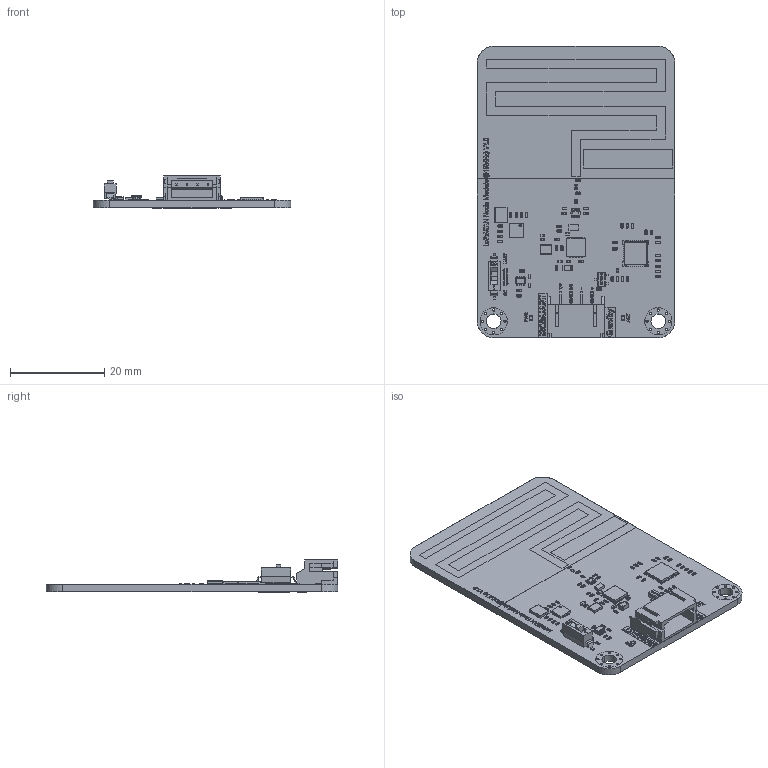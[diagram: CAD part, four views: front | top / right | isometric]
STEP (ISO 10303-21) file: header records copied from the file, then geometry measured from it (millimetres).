
FILE_DESCRIPTION(/* description */ (''),/* implementation_level */ '2;1');
FILE_NAME(/* name */ 'DFR111~1',/* time_stamp */ '2024-11-05T15:00:27+08:00',/* author */ (''),/* organization */ (''),/* preprocessor_version */ 'ST-DEVELOPER v16.5',/* originating_system */ '',/* authorisation */ '');
FILE_SCHEMA (('AUTOMOTIVE_DESIGN'));
Products named in the file (1): Document
Bounding box: 42 x 62 x 6.82 mm (x, y, z)
Volume: 4949.9 mm3; surface area: 12961.1 mm2
Topology: 374 solids, 424 shells, 6130 faces, 14102 edges, 8718 vertices
Faces by surface type: bspline 3227, plane 2903
Entity records: 212734 total; most frequent: CARTESIAN_POINT 120448, ORIENTED_EDGE 27750, EDGE_CURVE 14025, B_SPLINE_CURVE_WITH_KNOTS 9170, VERTEX_POINT 8718, EDGE_LOOP 6305, ADVANCED_FACE 6130, FACE_OUTER_BOUND 6130
